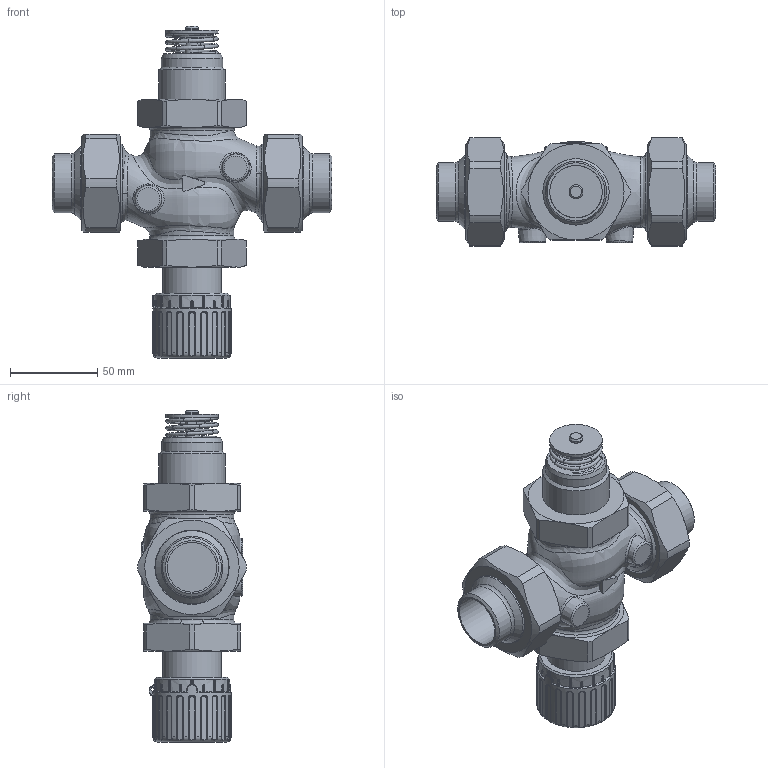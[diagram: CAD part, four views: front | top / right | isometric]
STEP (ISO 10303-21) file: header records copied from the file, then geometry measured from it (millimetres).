
FILE_DESCRIPTION(/* description */ (''),/* implementation_level */ '2;1');
FILE_NAME(/* name */ 'rv122p_dn25_W.stp',/* time_stamp */ '2012-05-24T07:25:29+02:00',/* author */ ('KLIMES'),/* organization */ ('LDM'),/* preprocessor_version */ 'ST-DEVELOPER v11',/* originating_system */ 'SIEMENS PLM Software NX 7.0',/* authorisation */ '');
FILE_SCHEMA (('CONFIG_CONTROL_DESIGN'));
Length unit declared in the file: millimetre
Products named in the file (1): klim6733ig5f
Bounding box: 160 x 61.98 x 190 mm (x, y, z)
Volume: 76817.2 mm3; surface area: 83250.3 mm2
Topology: 6 solids, 7 shells, 602 faces, 1479 edges, 909 vertices
Faces by surface type: cylinder 215, plane 155, bspline 107, torus 73, cone 52
Full cylindrical faces by diameter (mm): 2 x1, 8 x2, 24.5 x1, 28.5 x2, 30 x1, 33 x2, 33.7 x2, 33.8 x1, 35 x1, 37 x1, 38 x1, 42 x2, 42.5 x2, 43 x1, 44 x2, 44.5 x2, 44.845 x2, 47.8 x2
Entity records: 28980 total; most frequent: CARTESIAN_POINT 16197, ORIENTED_EDGE 2708, DIRECTION 2448, EDGE_CURVE 1354, AXIS2_PLACEMENT_3D 1032, VERTEX_POINT 866, EDGE_LOOP 718, ADVANCED_FACE 602
